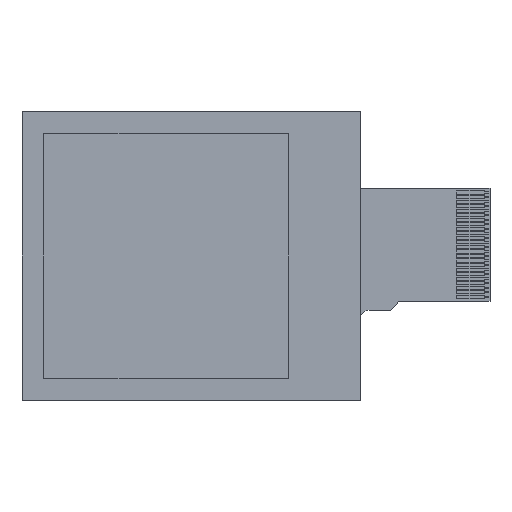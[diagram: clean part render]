
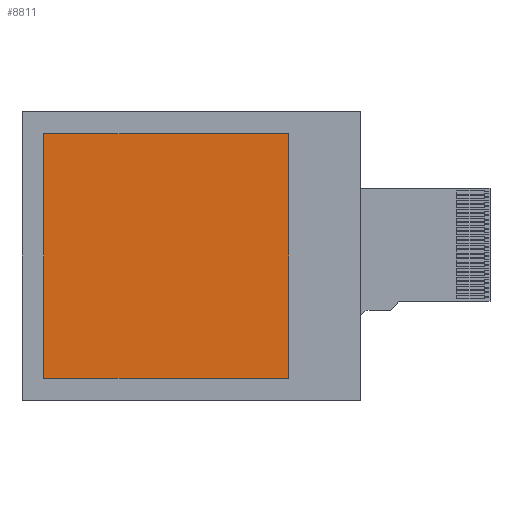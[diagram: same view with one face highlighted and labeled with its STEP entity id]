
A CAD part, left-side view. The second image highlights one B-rep face of the part: STEP entity #8811.
In plain terms, the highlighted planar face has unit normal (-1, 0, 0).
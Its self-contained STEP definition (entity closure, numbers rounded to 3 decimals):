
#90 = DIRECTION ( 'NONE',  ( 1., 0., 0. ) ) ;
#148 = FACE_OUTER_BOUND ( 'NONE', #3652, .T. ) ;
#545 = EDGE_CURVE ( 'NONE', #6030, #7375, #9554, .T. ) ;
#1632 = CARTESIAN_POINT ( 'NONE',  ( 0., -10.74, 13.5 ) ) ;
#1770 = CARTESIAN_POINT ( 'NONE',  ( 0., -10.74, 0. ) ) ;
#2323 = EDGE_CURVE ( 'NONE', #2571, #6030, #3684, .T. ) ;
#2571 = VERTEX_POINT ( 'NONE', #4513 ) ;
#2665 = EDGE_CURVE ( 'NONE', #4133, #2571, #8889, .T. ) ;
#2798 = ORIENTED_EDGE ( 'NONE', *, *, #2323, .T. ) ;
#3237 = ORIENTED_EDGE ( 'NONE', *, *, #2665, .T. ) ;
#3241 = CARTESIAN_POINT ( 'NONE',  ( 0., -10.74, -13.5 ) ) ;
#3652 = EDGE_LOOP ( 'NONE', ( #7757, #9177, #3237, #2798 ) ) ;
#3684 = LINE ( 'NONE', #6269, #8432 ) ;
#4133 = VERTEX_POINT ( 'NONE', #7380 ) ;
#4284 = EDGE_CURVE ( 'NONE', #7375, #4133, #10536, .T. ) ;
#4379 = DIRECTION ( 'NONE',  ( 0., 0., 1. ) ) ;
#4394 = PLANE ( 'NONE',  #8567 ) ;
#4513 = CARTESIAN_POINT ( 'NONE',  ( 0., 16.26, -13.5 ) ) ;
#4675 = CARTESIAN_POINT ( 'NONE',  ( 0., 16.26, 0. ) ) ;
#5137 = VECTOR ( 'NONE', #6952, 1000. ) ;
#5391 = DIRECTION ( 'NONE',  ( 0., -1., 0. ) ) ;
#5467 = VECTOR ( 'NONE', #4379, 1000. ) ;
#6030 = VERTEX_POINT ( 'NONE', #3241 ) ;
#6253 = CARTESIAN_POINT ( 'NONE',  ( 0., 0., 0. ) ) ;
#6269 = CARTESIAN_POINT ( 'NONE',  ( 0., 0., -13.5 ) ) ;
#6372 = DIRECTION ( 'NONE',  ( 0., 0., -1. ) ) ;
#6952 = DIRECTION ( 'NONE',  ( 0., 1., 0. ) ) ;
#7013 = DIRECTION ( 'NONE',  ( 0., 0., -1. ) ) ;
#7124 = CARTESIAN_POINT ( 'NONE',  ( 0., 0., 13.5 ) ) ;
#7375 = VERTEX_POINT ( 'NONE', #1632 ) ;
#7380 = CARTESIAN_POINT ( 'NONE',  ( 0., 16.26, 13.5 ) ) ;
#7757 = ORIENTED_EDGE ( 'NONE', *, *, #545, .T. ) ;
#8167 = VECTOR ( 'NONE', #6372, 1000. ) ;
#8432 = VECTOR ( 'NONE', #5391, 1000. ) ;
#8567 = AXIS2_PLACEMENT_3D ( 'NONE', #6253, #90, #7013 ) ;
#8811 = ADVANCED_FACE ( 'NONE', ( #148 ), #4394, .F. ) ;
#8889 = LINE ( 'NONE', #4675, #8167 ) ;
#9177 = ORIENTED_EDGE ( 'NONE', *, *, #4284, .T. ) ;
#9554 = LINE ( 'NONE', #1770, #5467 ) ;
#10536 = LINE ( 'NONE', #7124, #5137 ) ;
